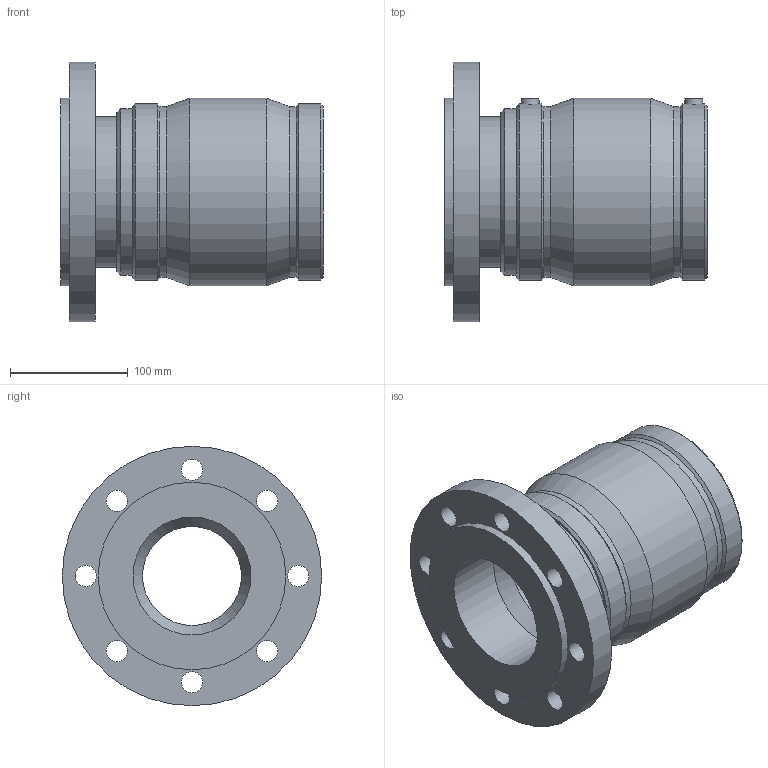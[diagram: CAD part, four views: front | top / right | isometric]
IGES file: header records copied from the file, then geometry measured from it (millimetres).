
Global section: file name: 497704110.ipt; native system: Autodesk Inventor 2015; preprocessor: unknown; author: KIM; date: 20180502.162027; units: millimetre
Bounding box: 223 x 220 x 220 mm (x, y, z)
Volume: 2697599.7 mm3; surface area: 274087.2 mm2
Topology: 1 solids, 2 shells, 57 faces, 126 edges, 83 vertices
Faces by surface type: revolution 17, plane 16, cylinder 13, cone 11
Full cylindrical faces by diameter (mm): 4 x2, 110 x2, 127.359 x1, 141.51 x1, 144.976 x2, 149.46 x2, 159 x2, 220 x1
